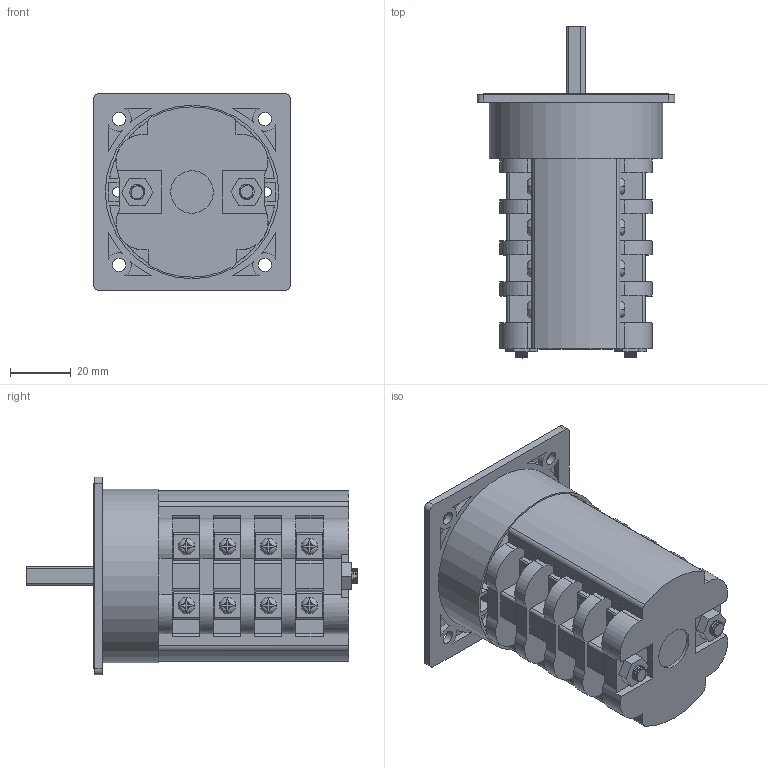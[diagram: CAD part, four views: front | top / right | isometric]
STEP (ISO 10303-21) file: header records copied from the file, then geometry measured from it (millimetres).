
FILE_DESCRIPTION(/* description */ (''),/* implementation_level */ '2;1');
FILE_NAME(/* name */ '4G16,25_standard_4_korpusy.stp',/* time_stamp */ '2021-07-21T13:40:16+02:00',/* author */ (''),/* organization */ (''),/* preprocessor_version */ 'ST-DEVELOPER v18.1',/* originating_system */ 'SIEMENS PLM Software NX 1965',/* authorisation */ '');
FILE_SCHEMA (('AUTOMOTIVE_DESIGN { 1 0 10303 214 3 1 1 1 }'));
Products named in the file (1): 4G16,25_standard_4_korpusy_stp
Bounding box: 65 x 109.2 x 65 mm (x, y, z)
Volume: 173863.4 mm3; surface area: 41086.6 mm2
Topology: 1 solids, 5 shells, 1015 faces, 2849 edges, 1882 vertices
Faces by surface type: plane 574, cylinder 298, bspline 110, cone 33
Full cylindrical faces by diameter (mm): 3.3 x3, 4 x4, 4.3 x4, 5 x2, 5.4 x16, 6.5 x2, 7.2 x4, 10 x1, 14 x1, 57 x1
Entity records: 96773 total; most frequent: CARTESIAN_POINT 71939, ORIENTED_EDGE 5488, DIRECTION 4611, EDGE_CURVE 2744, VERTEX_POINT 1837, AXIS2_PLACEMENT_3D 1637, LINE 1337, VECTOR 1337
